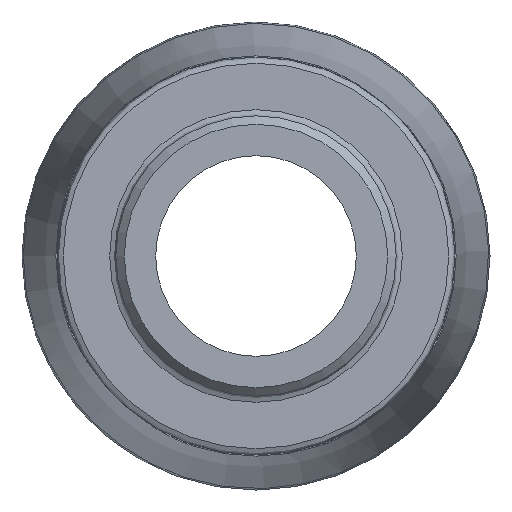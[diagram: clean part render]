
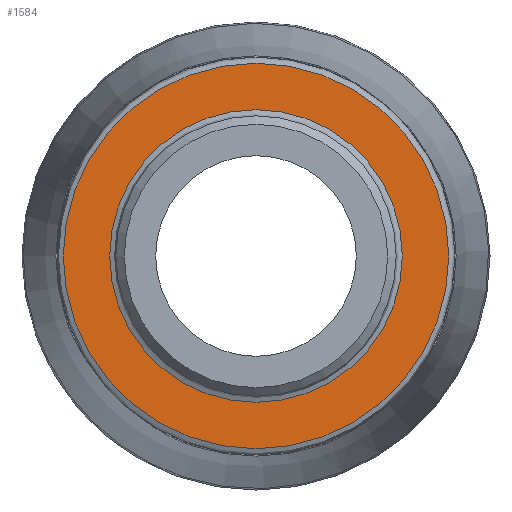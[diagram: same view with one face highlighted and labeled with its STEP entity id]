
A CAD part, left-side view. The second image highlights one B-rep face of the part: STEP entity #1584.
In plain terms, the highlighted planar face has unit normal (-1, 0, 0).
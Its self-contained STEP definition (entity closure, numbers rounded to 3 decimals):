
#262=PLANE('',#1742);
#356=FACE_BOUND('',#504,.T.);
#392=FACE_OUTER_BOUND('',#503,.T.);
#503=EDGE_LOOP('',(#1230));
#504=EDGE_LOOP('',(#1231));
#632=CIRCLE('',#1741,21.88);
#633=CIRCLE('',#1743,28.825);
#742=VERTEX_POINT('',#2825);
#743=VERTEX_POINT('',#2828);
#920=EDGE_CURVE('',#742,#742,#632,.T.);
#921=EDGE_CURVE('',#743,#743,#633,.T.);
#1230=ORIENTED_EDGE('',*,*,#921,.F.);
#1231=ORIENTED_EDGE('',*,*,#920,.F.);
#1584=ADVANCED_FACE('',(#392,#356),#262,.T.);
#1741=AXIS2_PLACEMENT_3D('',#2826,#2035,#2036);
#1742=AXIS2_PLACEMENT_3D('',#2827,#2037,#2038);
#1743=AXIS2_PLACEMENT_3D('',#2829,#2039,#2040);
#2035=DIRECTION('center_axis',(-1.,0.,0.));
#2036=DIRECTION('ref_axis',(0.,-1.,0.));
#2037=DIRECTION('center_axis',(-1.,0.,0.));
#2038=DIRECTION('ref_axis',(0.,0.,1.));
#2039=DIRECTION('center_axis',(1.,0.,0.));
#2040=DIRECTION('ref_axis',(0.,-1.,0.));
#2825=CARTESIAN_POINT('',(21.,21.88,0.));
#2826=CARTESIAN_POINT('Origin',(21.,0.,0.));
#2827=CARTESIAN_POINT('Origin',(21.,29.75,0.));
#2828=CARTESIAN_POINT('',(21.,28.825,0.));
#2829=CARTESIAN_POINT('Origin',(21.,0.,0.));
